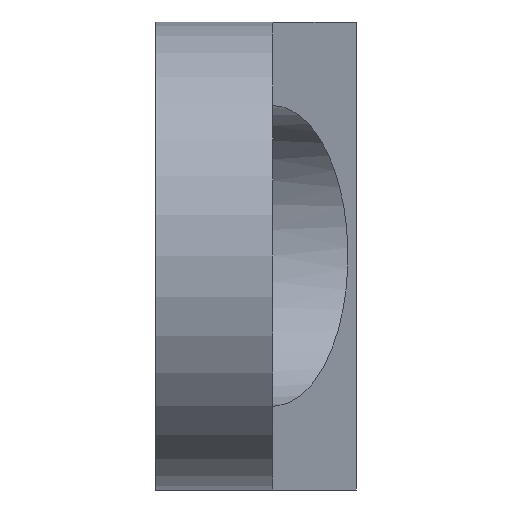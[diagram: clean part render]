
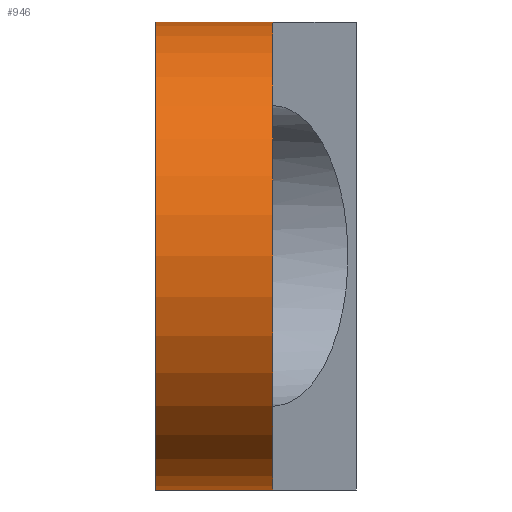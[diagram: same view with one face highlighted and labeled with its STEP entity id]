
A CAD part, left-side view. The second image highlights one B-rep face of the part: STEP entity #946.
In plain terms, the highlighted cylindrical face has radius 7 mm (diameter 14 mm), a partial arc.
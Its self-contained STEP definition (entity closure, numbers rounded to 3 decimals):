
#39 = AXIS2_PLACEMENT_3D ( 'NONE', #917, #908, #924 ) ;
#40 = AXIS2_PLACEMENT_3D ( 'NONE', #1475, #1479, #1476 ) ;
#65 = EDGE_CURVE ( 'NONE', #1522, #1534, #723, .T. ) ;
#72 = EDGE_CURVE ( 'NONE', #1560, #1526, #660, .T. ) ;
#81 = EDGE_CURVE ( 'NONE', #1560, #1522, #825, .T. ) ;
#112 = EDGE_CURVE ( 'NONE', #1526, #1534, #754, .T. ) ;
#246 = CARTESIAN_POINT ( 'NONE',  ( -9., 6., -7. ) ) ;
#471 = EDGE_LOOP ( 'NONE', ( #1638, #1619, #1642, #1623 ) ) ;
#555 = DIRECTION ( 'NONE',  ( 0., -1., 0. ) ) ;
#580 = DIRECTION ( 'NONE',  ( 0., 0., -1. ) ) ;
#584 = DIRECTION ( 'NONE',  ( 0., -1., 0. ) ) ;
#585 = CARTESIAN_POINT ( 'NONE',  ( -9., 6., 0. ) ) ;
#660 = CIRCLE ( 'NONE', #39, 7. ) ;
#686 = CYLINDRICAL_SURFACE ( 'NONE', #1451, 7. ) ;
#723 = CIRCLE ( 'NONE', #40, 7. ) ;
#754 = LINE ( 'NONE', #1172, #804 ) ;
#797 = VECTOR ( 'NONE', #555, 1000. ) ;
#804 = VECTOR ( 'NONE', #1165, 1000. ) ;
#825 = LINE ( 'NONE', #910, #797 ) ;
#892 = FACE_OUTER_BOUND ( 'NONE', #471, .T. ) ;
#908 = DIRECTION ( 'NONE',  ( 0., 1., 0. ) ) ;
#910 = CARTESIAN_POINT ( 'NONE',  ( -9., 6., -7. ) ) ;
#917 = CARTESIAN_POINT ( 'NONE',  ( -9., 6., 0. ) ) ;
#924 = DIRECTION ( 'NONE',  ( 0., 0., 1. ) ) ;
#946 = ADVANCED_FACE ( 'NONE', ( #892 ), #686, .T. ) ;
#1035 = CARTESIAN_POINT ( 'NONE',  ( -9., 2.5, -7. ) ) ;
#1040 = CARTESIAN_POINT ( 'NONE',  ( -9., 6., 7. ) ) ;
#1047 = CARTESIAN_POINT ( 'NONE',  ( -9., 2.5, 7. ) ) ;
#1165 = DIRECTION ( 'NONE',  ( 0., -1., 0. ) ) ;
#1172 = CARTESIAN_POINT ( 'NONE',  ( -9., 6., 7. ) ) ;
#1451 = AXIS2_PLACEMENT_3D ( 'NONE', #585, #584, #580 ) ;
#1475 = CARTESIAN_POINT ( 'NONE',  ( -9., 2.5, 0. ) ) ;
#1476 = DIRECTION ( 'NONE',  ( 0., 0., 1. ) ) ;
#1479 = DIRECTION ( 'NONE',  ( 0., 1., 0. ) ) ;
#1522 = VERTEX_POINT ( 'NONE', #1035 ) ;
#1526 = VERTEX_POINT ( 'NONE', #1040 ) ;
#1534 = VERTEX_POINT ( 'NONE', #1047 ) ;
#1560 = VERTEX_POINT ( 'NONE', #246 ) ;
#1619 = ORIENTED_EDGE ( 'NONE', *, *, #65, .T. ) ;
#1623 = ORIENTED_EDGE ( 'NONE', *, *, #72, .F. ) ;
#1638 = ORIENTED_EDGE ( 'NONE', *, *, #81, .T. ) ;
#1642 = ORIENTED_EDGE ( 'NONE', *, *, #112, .F. ) ;
